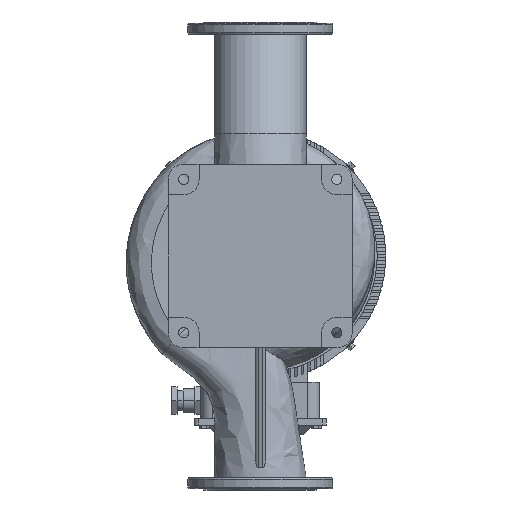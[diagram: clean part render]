
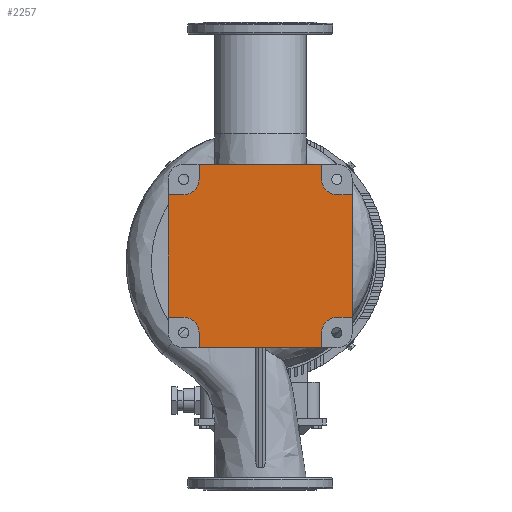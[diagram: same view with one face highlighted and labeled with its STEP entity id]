
A CAD part, front view. The second image highlights one B-rep face of the part: STEP entity #2257.
In plain terms, the highlighted planar face has unit normal (0, -1, 0).
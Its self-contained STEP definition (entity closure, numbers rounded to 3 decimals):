
#1345=PLANE('',#32024);
#2257=ADVANCED_FACE('',(#4696),#1345,.F.);
#4696=FACE_OUTER_BOUND('',#6493,.T.);
#6493=EDGE_LOOP('',(#14379,#14380,#14381,#14382,#14383,#14384,#14385,#14386,
#14387,#14388,#14389,#14390,#14391,#14392,#14393,#14394));
#8676=LINE('',#53888,#10417);
#8684=LINE('',#53906,#10425);
#8692=LINE('',#53926,#10433);
#8700=LINE('',#53943,#10441);
#8706=LINE('',#53959,#10447);
#8707=LINE('',#53961,#10448);
#8710=LINE('',#53969,#10451);
#8711=LINE('',#53971,#10452);
#8714=LINE('',#53979,#10455);
#8715=LINE('',#53981,#10456);
#8718=LINE('',#53989,#10459);
#8719=LINE('',#53991,#10460);
#10417=VECTOR('',#36348,1.);
#10425=VECTOR('',#36362,1.);
#10433=VECTOR('',#36380,1.);
#10441=VECTOR('',#36398,1.);
#10447=VECTOR('',#36414,1.);
#10448=VECTOR('',#36417,1.);
#10451=VECTOR('',#36426,1.);
#10452=VECTOR('',#36429,1.);
#10455=VECTOR('',#36438,1.);
#10456=VECTOR('',#36441,1.);
#10459=VECTOR('',#36450,1.);
#10460=VECTOR('',#36453,1.);
#14379=ORIENTED_EDGE('',*,*,#25898,.T.);
#14380=ORIENTED_EDGE('',*,*,#25916,.T.);
#14381=ORIENTED_EDGE('',*,*,#25863,.T.);
#14382=ORIENTED_EDGE('',*,*,#25915,.T.);
#14383=ORIENTED_EDGE('',*,*,#25913,.T.);
#14384=ORIENTED_EDGE('',*,*,#25911,.T.);
#14385=ORIENTED_EDGE('',*,*,#25872,.T.);
#14386=ORIENTED_EDGE('',*,*,#25910,.T.);
#14387=ORIENTED_EDGE('',*,*,#25908,.T.);
#14388=ORIENTED_EDGE('',*,*,#25906,.T.);
#14389=ORIENTED_EDGE('',*,*,#25892,.T.);
#14390=ORIENTED_EDGE('',*,*,#25905,.T.);
#14391=ORIENTED_EDGE('',*,*,#25903,.T.);
#14392=ORIENTED_EDGE('',*,*,#25901,.T.);
#14393=ORIENTED_EDGE('',*,*,#25882,.T.);
#14394=ORIENTED_EDGE('',*,*,#25900,.T.);
#22740=VERTEX_POINT('',#53887);
#22741=VERTEX_POINT('',#53889);
#22747=VERTEX_POINT('',#53905);
#22748=VERTEX_POINT('',#53907);
#22753=VERTEX_POINT('',#53924);
#22755=VERTEX_POINT('',#53927);
#22758=VERTEX_POINT('',#53942);
#22759=VERTEX_POINT('',#53944);
#22762=VERTEX_POINT('',#53954);
#22763=VERTEX_POINT('',#53956);
#22764=VERTEX_POINT('',#53962);
#22765=VERTEX_POINT('',#53966);
#22766=VERTEX_POINT('',#53972);
#22767=VERTEX_POINT('',#53976);
#22768=VERTEX_POINT('',#53982);
#22769=VERTEX_POINT('',#53986);
#25863=EDGE_CURVE('',#22741,#22740,#8676,.T.);
#25872=EDGE_CURVE('',#22748,#22747,#8684,.T.);
#25882=EDGE_CURVE('',#22755,#22753,#8692,.T.);
#25892=EDGE_CURVE('',#22759,#22758,#8700,.T.);
#25898=EDGE_CURVE('',#22763,#22762,#30081,.T.);
#25900=EDGE_CURVE('',#22753,#22763,#8706,.T.);
#25901=EDGE_CURVE('',#22764,#22755,#8707,.T.);
#25903=EDGE_CURVE('',#22765,#22764,#30082,.T.);
#25905=EDGE_CURVE('',#22758,#22765,#8710,.T.);
#25906=EDGE_CURVE('',#22766,#22759,#8711,.T.);
#25908=EDGE_CURVE('',#22767,#22766,#30083,.T.);
#25910=EDGE_CURVE('',#22747,#22767,#8714,.T.);
#25911=EDGE_CURVE('',#22768,#22748,#8715,.T.);
#25913=EDGE_CURVE('',#22769,#22768,#30084,.T.);
#25915=EDGE_CURVE('',#22740,#22769,#8718,.T.);
#25916=EDGE_CURVE('',#22762,#22741,#8719,.T.);
#30081=CIRCLE('',#32008,36.);
#30082=CIRCLE('',#32012,36.);
#30083=CIRCLE('',#32016,36.);
#30084=CIRCLE('',#32020,36.);
#32008=AXIS2_PLACEMENT_3D('',#53955,#36409,#36410);
#32012=AXIS2_PLACEMENT_3D('',#53965,#36421,#36422);
#32016=AXIS2_PLACEMENT_3D('',#53975,#36433,#36434);
#32020=AXIS2_PLACEMENT_3D('',#53985,#36445,#36446);
#32024=AXIS2_PLACEMENT_3D('',#53993,#36456,#36457);
#36348=DIRECTION('',(1.,0.,0.));
#36362=DIRECTION('',(0.,0.,1.));
#36380=DIRECTION('',(0.,0.,-1.));
#36398=DIRECTION('',(-1.,0.,0.));
#36409=DIRECTION('',(0.,1.,0.));
#36410=DIRECTION('',(0.,0.,1.));
#36414=DIRECTION('',(1.,0.,0.));
#36417=DIRECTION('',(-1.,0.,0.));
#36421=DIRECTION('',(0.,1.,0.));
#36422=DIRECTION('',(0.,0.,1.));
#36426=DIRECTION('',(0.,0.,-1.));
#36429=DIRECTION('',(0.,0.,1.));
#36433=DIRECTION('',(0.,1.,0.));
#36434=DIRECTION('',(0.,0.,1.));
#36438=DIRECTION('',(-1.,0.,0.));
#36441=DIRECTION('',(1.,0.,0.));
#36445=DIRECTION('',(0.,1.,0.));
#36446=DIRECTION('',(0.,0.,1.));
#36450=DIRECTION('',(0.,0.,1.));
#36453=DIRECTION('',(0.,0.,-1.));
#36456=DIRECTION('',(0.,1.,0.));
#36457=DIRECTION('',(0.,0.,-1.));
#53887=CARTESIAN_POINT('',(144.,-265.,-216.));
#53888=CARTESIAN_POINT('',(144.,-265.,-216.));
#53889=CARTESIAN_POINT('',(-144.,-265.,-216.));
#53905=CARTESIAN_POINT('',(216.,-265.,144.));
#53906=CARTESIAN_POINT('',(216.,-265.,144.));
#53907=CARTESIAN_POINT('',(216.,-265.,-144.));
#53924=CARTESIAN_POINT('',(-216.,-265.,-144.));
#53926=CARTESIAN_POINT('',(-216.,-265.,-144.));
#53927=CARTESIAN_POINT('',(-216.,-265.,144.));
#53942=CARTESIAN_POINT('',(-144.,-265.,216.));
#53943=CARTESIAN_POINT('',(-144.,-265.,216.));
#53944=CARTESIAN_POINT('',(144.,-265.,216.));
#53954=CARTESIAN_POINT('',(-144.,-265.,-180.));
#53955=CARTESIAN_POINT('',(-180.,-265.,-180.));
#53956=CARTESIAN_POINT('',(-180.,-265.,-144.));
#53959=CARTESIAN_POINT('',(-180.,-265.,-144.));
#53961=CARTESIAN_POINT('',(-180.,-265.,144.));
#53962=CARTESIAN_POINT('',(-180.,-265.,144.));
#53965=CARTESIAN_POINT('',(-180.,-265.,180.));
#53966=CARTESIAN_POINT('',(-144.,-265.,180.));
#53969=CARTESIAN_POINT('',(-144.,-265.,180.));
#53971=CARTESIAN_POINT('',(144.,-265.,180.));
#53972=CARTESIAN_POINT('',(144.,-265.,180.));
#53975=CARTESIAN_POINT('',(180.,-265.,180.));
#53976=CARTESIAN_POINT('',(180.,-265.,144.));
#53979=CARTESIAN_POINT('',(180.,-265.,144.));
#53981=CARTESIAN_POINT('',(180.,-265.,-144.));
#53982=CARTESIAN_POINT('',(180.,-265.,-144.));
#53985=CARTESIAN_POINT('',(180.,-265.,-180.));
#53986=CARTESIAN_POINT('',(144.,-265.,-180.));
#53989=CARTESIAN_POINT('',(144.,-265.,-180.));
#53991=CARTESIAN_POINT('',(-144.,-265.,-180.));
#53993=CARTESIAN_POINT('',(-180.,-265.,-180.));
